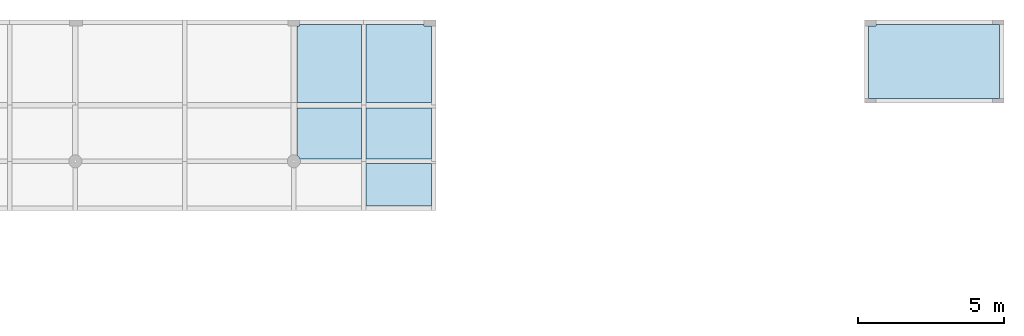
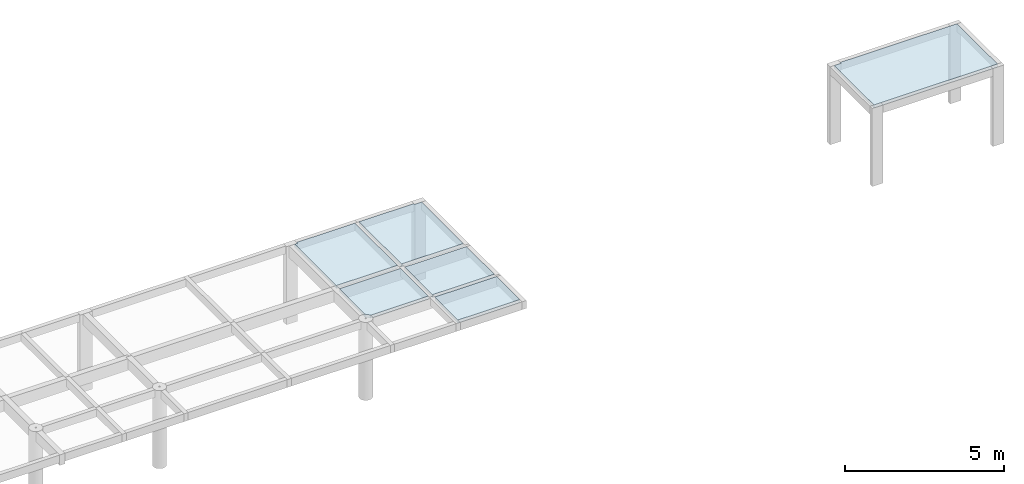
# One storey, part 4 of 4: 6 slabs.
"""IFC2X3 building model written with IfcOpenShell, lengths in centimetres."""

from ifc_helpers import new_model, si_unit, derived_unit, frame, origin, origin_with_axes, place, context, project, spatial, polyline, outline, extrude, material, element, save


model = new_model("IFC2X3")

# Units and contexts
model_context = context("Model", 3, precision=1e-05, world=origin_with_axes(), identifier="Body")
ifc_project = project(units=[si_unit("LENGTHUNIT", "METRE", prefix="CENTI"), si_unit("VOLUMEUNIT", "CUBIC_METRE"), si_unit("AREAUNIT", "SQUARE_METRE"), si_unit("POWERUNIT", "WATT"), si_unit("LUMINOUSFLUXUNIT", "LUMEN"), si_unit("ELECTRICCURRENTUNIT", "AMPERE"), si_unit("PRESSUREUNIT", "PASCAL", prefix="KILO"), si_unit("MASSUNIT", "GRAM", prefix="KILO"), si_unit("PLANEANGLEUNIT", "RADIAN"), derived_unit("VOLUMETRICFLOWRATEUNIT", [(si_unit("LENGTHUNIT", "METRE"), 3), (si_unit("TIMEUNIT", "SECOND"), -1)])], contexts=[model_context])

# Site, building, storey
site_placement = place(None, origin_with_axes())
site = spatial("IfcSite", under=ifc_project, at=site_placement)
building_placement = place(site_placement, origin())
building = spatial("IfcBuilding", under=site, at=building_placement)
placement_1 = place(building_placement, origin_with_axes())
placement_2 = place(placement_1, frame((0.0, 0.0, 80.0), z_axis=(0.0, 0.0, 1.0), x_axis=(1.0, 0.0, 0.0)))
placement_3 = place(placement_2, frame((0.0, 0.0, 320.0), z_axis=(0.0, 0.0, 1.0), x_axis=(1.0, 0.0, 0.0)))
placement_4 = place(placement_3, frame((0.0, 0.0, 320.0), z_axis=(0.0, 0.0, 1.0), x_axis=(1.0, 0.0, 0.0)))
storey_placement = place(placement_4, frame((0.0, 0.0, 300.0), z_axis=(0.0, 0.0, 1.0), x_axis=(1.0, 0.0, 0.0)))
storey = spatial("IfcBuildingStorey", under=building, at=storey_placement, Name="05. Pavimento Técnico", CompositionType="ELEMENT", Elevation=1020.0)

# Slabs
ifc_material = material(Name="Concreto")
slab_1_placement = place(storey_placement, frame((1959.665, -422.8595, 0.0), z_axis=(0.0, 0.0, 1.0), x_axis=(1.0, 0.0, 0.0)))
element("IfcSlab", 1, at=slab_1_placement, inside=storey, material=ifc_material, Name="L11", PredefinedType="FLOOR", context=model_context, shape_type="SolidModel", body=[
    extrude(outline(polyline([(111.124, 133.749), (-101.124, 133.75), (-101.125, 128.749), (-111.125, 128.749), (-111.125, -133.749), (111.125, -133.749), (111.124, 133.749), (111.124, 133.749)])), frame((0.0, -0.0005, -12.0), z_axis=(0.0, 0.0, 1.0), x_axis=(1.0, 0.0, 0.0)), (0.0, 0.0, 1.0), 12.0),
])
slab_2_placement = place(storey_placement, frame((2198.1645, -422.86, 0.0), z_axis=(0.0, 0.0, 1.0), x_axis=(1.0, 0.0, 0.0)))
element("IfcSlab", 2, at=slab_2_placement, inside=storey, material=ifc_material, Name="L12", PredefinedType="FLOOR", context=model_context, shape_type="SolidModel", body=[
    extrude(outline(polyline([(112.374, 128.749), (87.374, 128.749), (87.375, 133.75), (-112.375, 133.749), (-112.375, -133.75), (112.374, -133.75), (112.374, 128.749), (112.374, 128.749)])), frame((0.0005, 0.0, -12.0), z_axis=(0.0, 0.0, 1.0), x_axis=(1.0, 0.0, 0.0)), (0.0, 0.0, 1.0), 12.0),
])
slab_3_placement = place(storey_placement, frame((4035.79, -416.6095, 0.0), z_axis=(0.0, 0.0, 1.0), x_axis=(1.0, 0.0, 0.0)))
element("IfcSlab", 3, at=slab_3_placement, inside=storey, material=ifc_material, Name="L13", PredefinedType="FLOOR", context=model_context, shape_type="SolidModel", body=[
    extrude(outline(polyline([(224.75, -127.499), (224.75, 127.5), (-199.75, 127.5), (-199.75, 122.499), (-224.75, 122.5), (-224.749, -127.499), (224.75, -127.499), (224.75, -127.499)])), frame((0.0, -0.0005, -12.0), z_axis=(0.0, 0.0, 1.0), x_axis=(1.0, 0.0, 0.0)), (0.0, 0.0, 1.0), 12.0),
])
slab_4_placement = place(storey_placement, frame((1959.6645, -664.0355, 0.0), z_axis=(0.0, 0.0, 1.0), x_axis=(1.0, 0.0, 0.0)))
element("IfcSlab", 4, at=slab_4_placement, inside=storey, material=ifc_material, Name="L25", PredefinedType="FLOOR", context=model_context, shape_type="SolidModel", body=[
    extrude(outline(polyline([(111.124, 87.424), (-111.125, 87.424), (-111.125, -74.865), (-109.744, -75.435), (-105.085, -79.014), (-101.504, -83.675), (-99.958, -87.425), (111.124, -87.425), (111.124, 87.424), (111.124, 87.424)])), frame((0.0005, 0.0005, -12.0), z_axis=(0.0, 0.0, 1.0), x_axis=(1.0, 0.0, 0.0)), (0.0, 0.0, 1.0), 12.0),
])
slab_5_placement = place(storey_placement, frame((2198.1655, -664.035, 0.0), z_axis=(0.0, 0.0, 1.0), x_axis=(1.0, 0.0, 0.0)))
element("IfcSlab", 5, at=slab_5_placement, inside=storey, material=ifc_material, Name="L26", PredefinedType="FLOOR", context=model_context, shape_type="SolidModel", body=[
    extrude(outline(polyline([(112.375, 87.424), (-112.374, 87.424), (-112.374, -87.424), (112.375, -87.424), (112.375, 87.424), (112.375, 87.424)])), frame((-0.0005, 0.0, -12.0), z_axis=(0.0, 0.0, 1.0), x_axis=(1.0, 0.0, 0.0)), (0.0, 0.0, 1.0), 12.0),
])
slab_6_placement = place(storey_placement, frame((2198.165, -839.2855, 0.0), z_axis=(0.0, 0.0, 1.0), x_axis=(1.0, 0.0, 0.0)))
element("IfcSlab", 6, at=slab_6_placement, inside=storey, material=ifc_material, Name="L40", PredefinedType="FLOOR", context=model_context, shape_type="SolidModel", body=[
    extrude(outline(polyline([(112.374, 72.824), (-112.375, 72.824), (-112.375, -72.825), (112.375, -72.825), (112.374, 72.824), (112.374, 72.824)])), frame((0.0, 0.0005, -12.0), z_axis=(0.0, 0.0, 1.0), x_axis=(1.0, 0.0, 0.0)), (0.0, 0.0, 1.0), 12.0),
])

save(model, "model.ifc")
